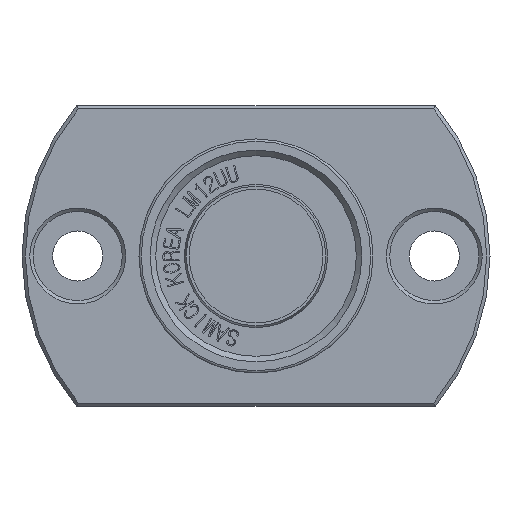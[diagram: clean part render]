
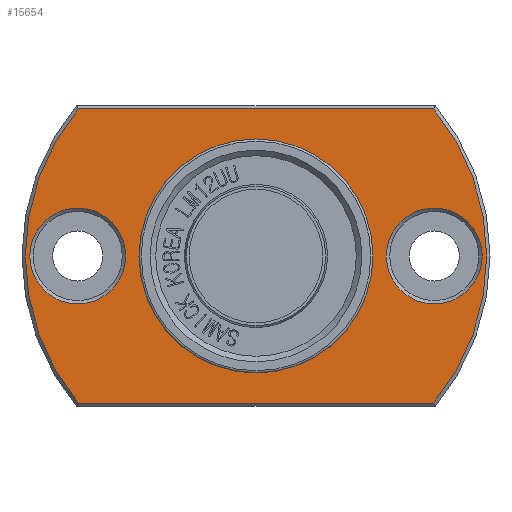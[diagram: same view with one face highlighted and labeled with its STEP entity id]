
A CAD part, front view. The second image highlights one B-rep face of the part: STEP entity #15654.
In plain terms, the highlighted planar face has unit normal (0, -1, 0).
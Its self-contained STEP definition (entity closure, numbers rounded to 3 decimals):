
#2567=FACE_BOUND('',#3703,.T.);
#2568=FACE_BOUND('',#3704,.T.);
#2569=FACE_BOUND('',#3705,.T.);
#2623=PLANE('',#16519);
#2860=FACE_OUTER_BOUND('',#3702,.T.);
#3702=EDGE_LOOP('',(#10902,#10903,#10904,#10905));
#3703=EDGE_LOOP('',(#10906));
#3704=EDGE_LOOP('',(#10907,#10908));
#3705=EDGE_LOOP('',(#10909));
#4600=LINE('',#18651,#5738);
#4601=LINE('',#18655,#5739);
#5738=VECTOR('',#16856,10.);
#5739=VECTOR('',#16859,10.);
#6875=CIRCLE('',#16516,4.3);
#6878=CIRCLE('',#16520,20.7);
#6879=CIRCLE('',#16521,20.7);
#6880=CIRCLE('',#16522,4.3);
#6881=CIRCLE('',#16523,10.5);
#6882=CIRCLE('',#16524,10.5);
#6941=VERTEX_POINT('',#18641);
#6944=VERTEX_POINT('',#18649);
#6945=VERTEX_POINT('',#18650);
#6946=VERTEX_POINT('',#18652);
#6947=VERTEX_POINT('',#18654);
#6948=VERTEX_POINT('',#18657);
#6949=VERTEX_POINT('',#18659);
#6950=VERTEX_POINT('',#18660);
#8525=EDGE_CURVE('',#6941,#6941,#6875,.T.);
#8529=EDGE_CURVE('',#6944,#6945,#4600,.T.);
#8530=EDGE_CURVE('',#6944,#6946,#6878,.T.);
#8531=EDGE_CURVE('',#6947,#6946,#4601,.T.);
#8532=EDGE_CURVE('',#6947,#6945,#6879,.T.);
#8533=EDGE_CURVE('',#6948,#6948,#6880,.T.);
#8534=EDGE_CURVE('',#6949,#6950,#6881,.T.);
#8535=EDGE_CURVE('',#6950,#6949,#6882,.T.);
#10902=ORIENTED_EDGE('',*,*,#8529,.F.);
#10903=ORIENTED_EDGE('',*,*,#8530,.T.);
#10904=ORIENTED_EDGE('',*,*,#8531,.F.);
#10905=ORIENTED_EDGE('',*,*,#8532,.T.);
#10906=ORIENTED_EDGE('',*,*,#8533,.F.);
#10907=ORIENTED_EDGE('',*,*,#8534,.F.);
#10908=ORIENTED_EDGE('',*,*,#8535,.F.);
#10909=ORIENTED_EDGE('',*,*,#8525,.F.);
#15654=ADVANCED_FACE('',(#2860,#2567,#2568,#2569),#2623,.T.);
#16516=AXIS2_PLACEMENT_3D('',#18642,#16847,#16848);
#16519=AXIS2_PLACEMENT_3D('',#18648,#16854,#16855);
#16520=AXIS2_PLACEMENT_3D('',#18653,#16857,#16858);
#16521=AXIS2_PLACEMENT_3D('',#18656,#16860,#16861);
#16522=AXIS2_PLACEMENT_3D('',#18658,#16862,#16863);
#16523=AXIS2_PLACEMENT_3D('',#18661,#16864,#16865);
#16524=AXIS2_PLACEMENT_3D('',#18662,#16866,#16867);
#16847=DIRECTION('center_axis',(0.,-1.,0.));
#16848=DIRECTION('ref_axis',(-1.,0.,0.));
#16854=DIRECTION('center_axis',(0.,-1.,0.));
#16855=DIRECTION('ref_axis',(0.,0.,-1.));
#16856=DIRECTION('',(-1.,0.,0.));
#16857=DIRECTION('center_axis',(0.,-1.,0.));
#16858=DIRECTION('ref_axis',(1.,0.,0.));
#16859=DIRECTION('',(1.,0.,0.));
#16860=DIRECTION('center_axis',(0.,-1.,0.));
#16861=DIRECTION('ref_axis',(1.,0.,0.));
#16862=DIRECTION('center_axis',(0.,-1.,0.));
#16863=DIRECTION('ref_axis',(-1.,0.,0.));
#16864=DIRECTION('center_axis',(0.,-1.,0.));
#16865=DIRECTION('ref_axis',(1.,0.,0.));
#16866=DIRECTION('center_axis',(0.,-1.,0.));
#16867=DIRECTION('ref_axis',(1.,0.,0.));
#18641=CARTESIAN_POINT('',(-11.7,-15.,0.));
#18642=CARTESIAN_POINT('Origin',(-16.,-15.,0.));
#18648=CARTESIAN_POINT('Origin',(15.6,-15.,0.));
#18649=CARTESIAN_POINT('',(15.945,-15.,-13.2));
#18650=CARTESIAN_POINT('',(-15.945,-15.,-13.2));
#18651=CARTESIAN_POINT('',(20.3,-15.,-13.2));
#18652=CARTESIAN_POINT('',(15.945,-15.,13.2));
#18653=CARTESIAN_POINT('Origin',(0.,-15.,0.));
#18654=CARTESIAN_POINT('',(-15.945,-15.,13.2));
#18655=CARTESIAN_POINT('',(-4.7,-15.,13.2));
#18656=CARTESIAN_POINT('Origin',(0.,-15.,0.));
#18657=CARTESIAN_POINT('',(20.3,-15.,0.));
#18658=CARTESIAN_POINT('Origin',(16.,-15.,0.));
#18659=CARTESIAN_POINT('',(10.5,-15.,0.));
#18660=CARTESIAN_POINT('',(-10.5,-15.,0.));
#18661=CARTESIAN_POINT('Origin',(0.,-15.,0.));
#18662=CARTESIAN_POINT('Origin',(0.,-15.,0.));
